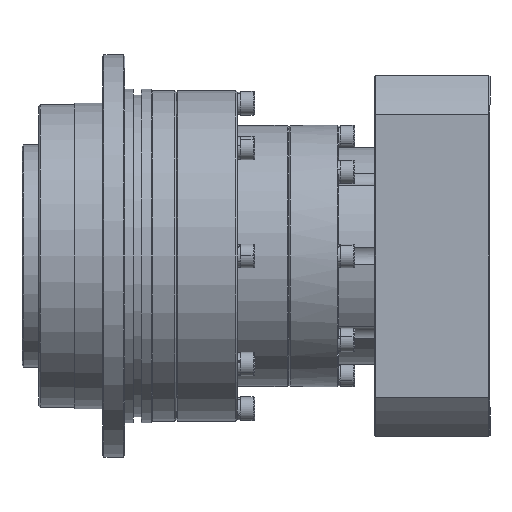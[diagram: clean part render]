
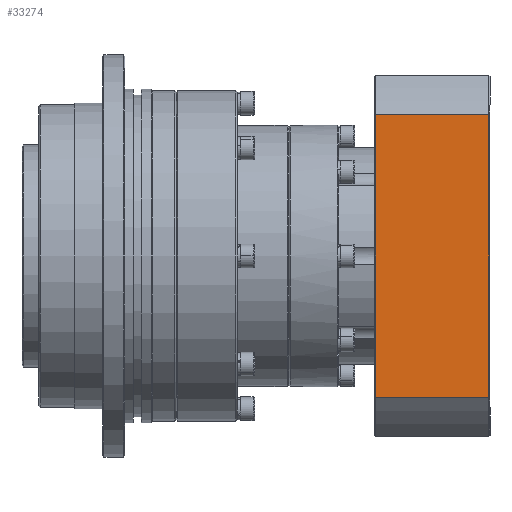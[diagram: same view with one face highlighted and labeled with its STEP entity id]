
A CAD part, front view. The second image highlights one B-rep face of the part: STEP entity #33274.
In plain terms, the highlighted planar face has unit normal (0, -1, 0).
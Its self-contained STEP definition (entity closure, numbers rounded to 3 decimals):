
#344 = DIRECTION ( 'NONE',  ( 0., 0., -1. ) ) ;
#837 = CARTESIAN_POINT ( 'NONE',  ( 41.1, -65., 50.806 ) ) ;
#2225 = CARTESIAN_POINT ( 'NONE',  ( 41.1, -65., -50.806 ) ) ;
#3943 = VERTEX_POINT ( 'NONE', #2225 ) ;
#3972 = ORIENTED_EDGE ( 'NONE', *, *, #35196, .F. ) ;
#4406 = VERTEX_POINT ( 'NONE', #837 ) ;
#6581 = LINE ( 'NONE', #13196, #17076 ) ;
#6876 = CARTESIAN_POINT ( 'NONE',  ( 0.4, -65., -50.806 ) ) ;
#8345 = VERTEX_POINT ( 'NONE', #24655 ) ;
#8622 = VECTOR ( 'NONE', #22330, 1000. ) ;
#9898 = DIRECTION ( 'NONE',  ( -1., 0., 0. ) ) ;
#11339 = LINE ( 'NONE', #34235, #8622 ) ;
#13124 = CARTESIAN_POINT ( 'NONE',  ( 0., -65., -50.806 ) ) ;
#13196 = CARTESIAN_POINT ( 'NONE',  ( 0., -65., 50.806 ) ) ;
#13840 = EDGE_LOOP ( 'NONE', ( #26368, #3972, #23875, #28131 ) ) ;
#14054 = CARTESIAN_POINT ( 'NONE',  ( 41.1, -65., -50.806 ) ) ;
#15330 = LINE ( 'NONE', #24078, #36669 ) ;
#16015 = DIRECTION ( 'NONE',  ( 1., 0., 0. ) ) ;
#17076 = VECTOR ( 'NONE', #16015, 1000. ) ;
#19949 = VERTEX_POINT ( 'NONE', #6876 ) ;
#21783 = EDGE_CURVE ( 'NONE', #8345, #19949, #11339, .T. ) ;
#22330 = DIRECTION ( 'NONE',  ( 0., 0., -1. ) ) ;
#23875 = ORIENTED_EDGE ( 'NONE', *, *, #33327, .F. ) ;
#24078 = CARTESIAN_POINT ( 'NONE',  ( -17.658, -65., -50.806 ) ) ;
#24655 = CARTESIAN_POINT ( 'NONE',  ( 0.4, -65., 50.806 ) ) ;
#26368 = ORIENTED_EDGE ( 'NONE', *, *, #21783, .T. ) ;
#27684 = PLANE ( 'NONE',  #35496 ) ;
#27798 = VECTOR ( 'NONE', #344, 1000. ) ;
#28131 = ORIENTED_EDGE ( 'NONE', *, *, #36514, .F. ) ;
#30095 = FACE_OUTER_BOUND ( 'NONE', #13840, .T. ) ;
#31433 = LINE ( 'NONE', #14054, #27798 ) ;
#32729 = DIRECTION ( 'NONE',  ( 0., 1., 0. ) ) ;
#33274 = ADVANCED_FACE ( 'NONE', ( #30095 ), #27684, .F. ) ;
#33327 = EDGE_CURVE ( 'NONE', #4406, #3943, #31433, .T. ) ;
#34235 = CARTESIAN_POINT ( 'NONE',  ( 0.4, -65., 0. ) ) ;
#35196 = EDGE_CURVE ( 'NONE', #3943, #19949, #15330, .T. ) ;
#35496 = AXIS2_PLACEMENT_3D ( 'NONE', #13124, #32729, #36241 ) ;
#36241 = DIRECTION ( 'NONE',  ( 0., 0., 1. ) ) ;
#36514 = EDGE_CURVE ( 'NONE', #8345, #4406, #6581, .T. ) ;
#36669 = VECTOR ( 'NONE', #9898, 1000. ) ;
